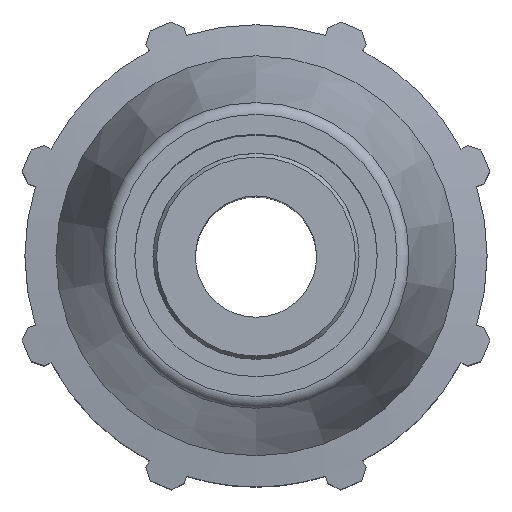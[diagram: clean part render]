
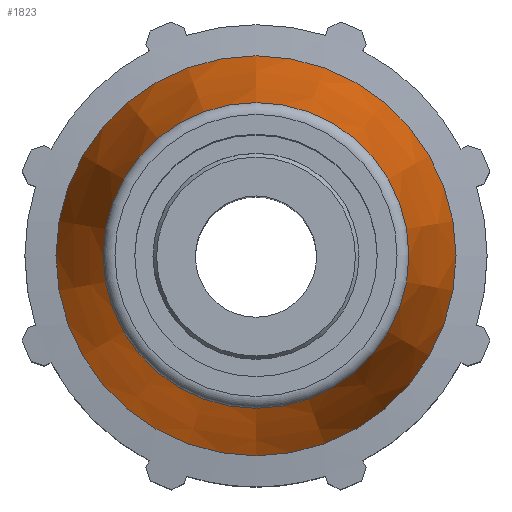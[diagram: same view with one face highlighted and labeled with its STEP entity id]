
A CAD part, top view. The second image highlights one B-rep face of the part: STEP entity #1823.
In plain terms, the highlighted conical face has half-angle 12.947 degrees and reference radius 28.935 mm.
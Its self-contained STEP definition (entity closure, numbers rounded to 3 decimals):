
#87=LINE('',#2823,#193);
#193=VECTOR('',#2220,28.935);
#299=CONICAL_SURFACE('',#1952,28.935,0.226);
#374=FACE_OUTER_BOUND('',#473,.T.);
#473=EDGE_LOOP('',(#1245,#1246,#1247,#1248,#1249,#1250,#1251));
#584=CIRCLE('',#1943,25.226);
#585=CIRCLE('',#1944,25.226);
#589=CIRCLE('',#1948,25.226);
#592=CIRCLE('',#1953,33.);
#593=CIRCLE('',#1954,33.);
#736=VERTEX_POINT('',#2802);
#737=VERTEX_POINT('',#2803);
#738=VERTEX_POINT('',#2805);
#743=VERTEX_POINT('',#2819);
#744=VERTEX_POINT('',#2820);
#944=EDGE_CURVE('',#736,#737,#584,.T.);
#945=EDGE_CURVE('',#737,#738,#585,.T.);
#949=EDGE_CURVE('',#738,#736,#589,.T.);
#952=EDGE_CURVE('',#743,#744,#592,.T.);
#953=EDGE_CURVE('',#744,#743,#593,.T.);
#954=EDGE_CURVE('',#744,#737,#87,.T.);
#1245=ORIENTED_EDGE('',*,*,#952,.F.);
#1246=ORIENTED_EDGE('',*,*,#953,.F.);
#1247=ORIENTED_EDGE('',*,*,#954,.T.);
#1248=ORIENTED_EDGE('',*,*,#944,.F.);
#1249=ORIENTED_EDGE('',*,*,#949,.F.);
#1250=ORIENTED_EDGE('',*,*,#945,.F.);
#1251=ORIENTED_EDGE('',*,*,#954,.F.);
#1823=ADVANCED_FACE('',(#374),#299,.T.);
#1943=AXIS2_PLACEMENT_3D('',#2804,#2196,#2197);
#1944=AXIS2_PLACEMENT_3D('',#2806,#2198,#2199);
#1948=AXIS2_PLACEMENT_3D('',#2812,#2206,#2207);
#1952=AXIS2_PLACEMENT_3D('',#2818,#2214,#2215);
#1953=AXIS2_PLACEMENT_3D('',#2821,#2216,#2217);
#1954=AXIS2_PLACEMENT_3D('',#2822,#2218,#2219);
#2196=DIRECTION('center_axis',(0.,0.,1.));
#2197=DIRECTION('ref_axis',(0.,-1.,0.));
#2198=DIRECTION('center_axis',(0.,0.,1.));
#2199=DIRECTION('ref_axis',(0.,-1.,0.));
#2206=DIRECTION('center_axis',(0.,0.,1.));
#2207=DIRECTION('ref_axis',(0.,-1.,0.));
#2214=DIRECTION('center_axis',(0.,0.,-1.));
#2215=DIRECTION('ref_axis',(0.,1.,0.));
#2216=DIRECTION('center_axis',(0.,0.,-1.));
#2217=DIRECTION('ref_axis',(1.,0.,0.));
#2218=DIRECTION('center_axis',(0.,0.,-1.));
#2219=DIRECTION('ref_axis',(1.,0.,0.));
#2220=DIRECTION('',(0.,0.224,0.975));
#2802=CARTESIAN_POINT('',(0.,25.226,-1.552));
#2803=CARTESIAN_POINT('',(0.,-25.226,-1.552));
#2804=CARTESIAN_POINT('Origin',(0.,0.,-1.552));
#2805=CARTESIAN_POINT('',(25.226,0.,-1.552));
#2806=CARTESIAN_POINT('Origin',(0.,0.,-1.552));
#2812=CARTESIAN_POINT('Origin',(0.,0.,-1.552));
#2818=CARTESIAN_POINT('Origin',(0.,0.,-17.684));
#2819=CARTESIAN_POINT('',(0.,33.,-35.367));
#2820=CARTESIAN_POINT('',(0.,-33.,-35.367));
#2821=CARTESIAN_POINT('Origin',(0.,0.,-35.367));
#2822=CARTESIAN_POINT('Origin',(0.,0.,-35.367));
#2823=CARTESIAN_POINT('',(0.,-28.935,-17.684));
